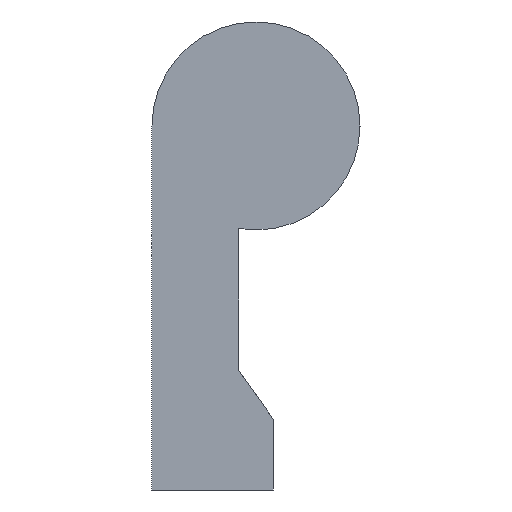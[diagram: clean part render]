
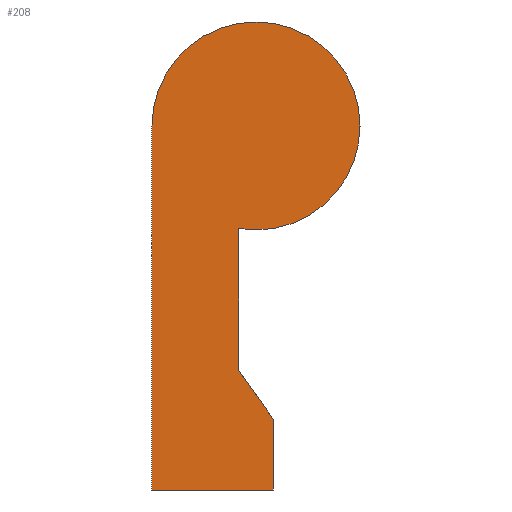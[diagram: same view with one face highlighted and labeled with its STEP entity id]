
A CAD part, left-side view. The second image highlights one B-rep face of the part: STEP entity #208.
In plain terms, the highlighted planar face has unit normal (-1, 0, 0).
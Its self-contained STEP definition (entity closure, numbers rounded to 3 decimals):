
#134 = EDGE_CURVE( '', #158, #352, #370, .T. );
#140 = EDGE_CURVE( '', #266, #142, #376, .T. );
#142 = VERTEX_POINT( '', #378 );
#158 = VERTEX_POINT( '', #396 );
#160 = VERTEX_POINT( '', #398 );
#182 = EDGE_CURVE( '', #226, #158, #422, .T. );
#208 = ADVANCED_FACE( '', ( #456 ), #457, .F. );
#218 = EDGE_CURVE( '', #142, #274, #470, .T. );
#226 = VERTEX_POINT( '', #480 );
#254 = EDGE_CURVE( '', #352, #266, #512, .T. );
#264 = EDGE_CURVE( '', #274, #160, #523, .T. );
#266 = VERTEX_POINT( '', #525 );
#270 = EDGE_CURVE( '', #160, #226, #529, .T. );
#274 = VERTEX_POINT( '', #533 );
#352 = VERTEX_POINT( '', #617 );
#370 = CIRCLE( '', #626, 6. );
#376 = LINE( '', #633, #634 );
#378 = CARTESIAN_POINT( '', ( -210., -4., 4.091 ) );
#396 = CARTESIAN_POINT( '', ( -210., -9., 21. ) );
#398 = CARTESIAN_POINT( '', ( -210., 3., 0. ) );
#422 = CIRCLE( '', #693, 6. );
#456 = FACE_OUTER_BOUND( '', #736, .T. );
#457 = PLANE( '', #737 );
#470 = LINE( '', #751, #752 );
#480 = CARTESIAN_POINT( '', ( -210., 3., 21. ) );
#512 = LINE( '', #799, #800 );
#523 = LINE( '', #815, #816 );
#525 = CARTESIAN_POINT( '', ( -210., -2., 6.896 ) );
#529 = LINE( '', #824, #825 );
#533 = CARTESIAN_POINT( '', ( -210., -4., 0. ) );
#617 = CARTESIAN_POINT( '', ( -210., -2., 15.084 ) );
#626 = AXIS2_PLACEMENT_3D( '', #951, #952, #953 );
#633 = CARTESIAN_POINT( '', ( -210., -2., 6.896 ) );
#634 = VECTOR( '', #954, 1. );
#693 = AXIS2_PLACEMENT_3D( '', #1010, #1011, #1012 );
#736 = EDGE_LOOP( '', ( #1055, #1056, #1057, #1058, #1059, #1060, #1061 ) );
#737 = AXIS2_PLACEMENT_3D( '', #1062, #1063, #1064 );
#751 = CARTESIAN_POINT( '', ( -210., -4., 4.091 ) );
#752 = VECTOR( '', #1087, 1. );
#799 = CARTESIAN_POINT( '', ( -210., -2., 15.084 ) );
#800 = VECTOR( '', #1138, 1. );
#815 = CARTESIAN_POINT( '', ( -210., -4., 0. ) );
#816 = VECTOR( '', #1154, 1. );
#824 = CARTESIAN_POINT( '', ( -210., 3., 0. ) );
#825 = VECTOR( '', #1158, 1. );
#951 = CARTESIAN_POINT( '', ( -210., -3., 21. ) );
#952 = DIRECTION( '', ( 1., 0., 0. ) );
#953 = DIRECTION( '', ( 0., 1., 0. ) );
#954 = DIRECTION( '', ( 0., -0.58, -0.814 ) );
#1010 = CARTESIAN_POINT( '', ( -210., -3., 21. ) );
#1011 = DIRECTION( '', ( 1., 0., 0. ) );
#1012 = DIRECTION( '', ( 0., 1., 0. ) );
#1055 = ORIENTED_EDGE( '', *, *, #254, .F. );
#1056 = ORIENTED_EDGE( '', *, *, #134, .F. );
#1057 = ORIENTED_EDGE( '', *, *, #182, .F. );
#1058 = ORIENTED_EDGE( '', *, *, #270, .F. );
#1059 = ORIENTED_EDGE( '', *, *, #264, .F. );
#1060 = ORIENTED_EDGE( '', *, *, #218, .F. );
#1061 = ORIENTED_EDGE( '', *, *, #140, .F. );
#1062 = CARTESIAN_POINT( '', ( -210., 0., 0. ) );
#1063 = DIRECTION( '', ( 1., 0., 0. ) );
#1064 = DIRECTION( '', ( 0., 0., -1. ) );
#1087 = DIRECTION( '', ( 0., 0., -1. ) );
#1138 = DIRECTION( '', ( 0., 0., -1. ) );
#1154 = DIRECTION( '', ( 0., 1., 0. ) );
#1158 = DIRECTION( '', ( 0., 0., 1. ) );
